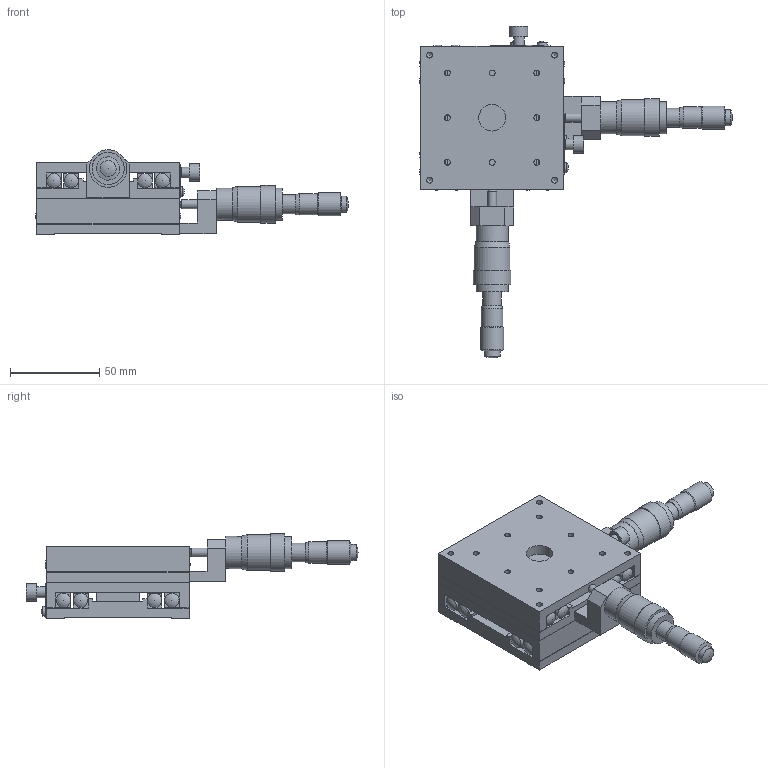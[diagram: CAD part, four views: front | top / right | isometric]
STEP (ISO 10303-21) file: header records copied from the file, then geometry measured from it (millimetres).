
FILE_DESCRIPTION( ( 'STEP AP214' ), '1' );
FILE_NAME( 'C:/Project/3D_B21-80B-配布-070508.stp', '2007-05-08T10:42:49', ( ' ' ), ( ' ' ), 'XStep 1.0', ' ', ' ' );
FILE_SCHEMA( ( 'automotive_design' ) );
Length unit declared in the file: millimetre
Products named in the file (6): 1; 2; 3; 4; 5; 6
Bounding box: 175.1 x 185.8 x 47.3 mm (x, y, z)
Volume: 262349.8 mm3; surface area: 94747.5 mm2
Topology: 6 solids, 6 shells, 339 faces, 1002 edges, 639 vertices
Faces by surface type: plane 188, cylinder 111, sphere 24, cone 16
Full cylindrical faces by diameter (mm): 3 x2, 3.3 x32, 4.5 x8, 5 x4, 5.6 x4, 6 x3, 8 x24, 9 x2, 10 x2, 10.5 x4, 12 x2, 13 x2, 15 x2, 18 x4, 20 x2, 21 x2
Entity records: 12175 total; most frequent: DIRECTION 1628, CARTESIAN_POINT 1575, ORIENTED_EDGE 1414, EDGE_CURVE 707, AXIS2_PLACEMENT_3D 576, EDGE_LOOP 534, VERTEX_POINT 523, LINE 476
